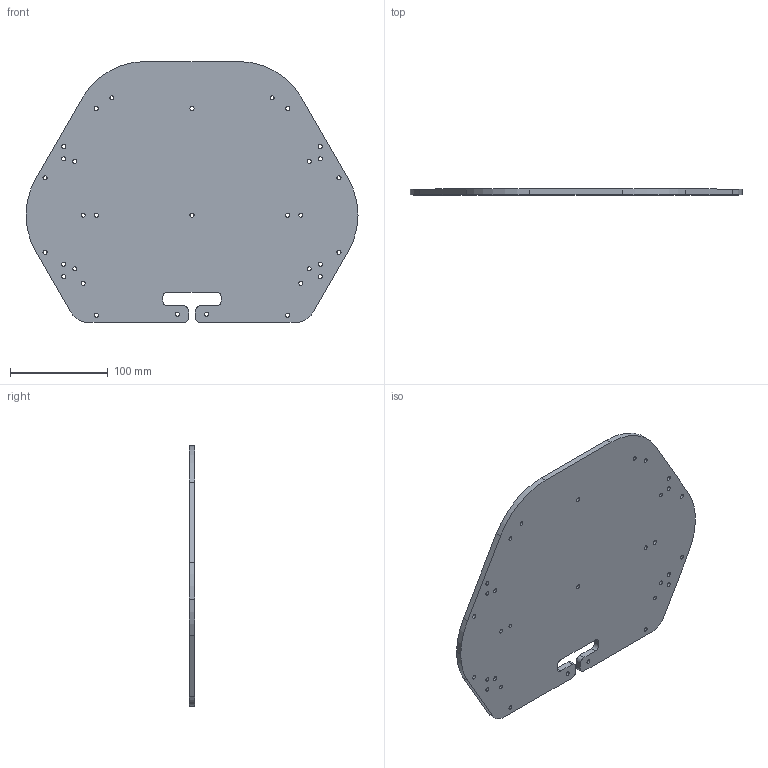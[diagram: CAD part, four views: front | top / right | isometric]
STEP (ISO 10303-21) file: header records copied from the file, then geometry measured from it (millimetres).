
FILE_DESCRIPTION((''),'2;1');
FILE_NAME('DISK_01_NEW','2012-11-01T',('asus'),(''),'PRO/ENGINEER BY PARAMETRIC TECHNOLOGY CORPORATION, 2010480','PRO/ENGINEER BY PARAMETRIC TECHNOLOGY CORPORATION, 2010480','');
FILE_SCHEMA(('CONFIG_CONTROL_DESIGN'));
Length unit declared in the file: millimetre
Products named in the file (1): DISK_01_NEW
Bounding box: 340 x 6 x 267.27 mm (x, y, z)
Volume: 438920.8 mm3; surface area: 155736.2 mm2
Topology: 1 solids, 1 shells, 96 faces, 282 edges, 188 vertices
Faces by surface type: cylinder 80, plane 16
Entity records: 3452 total; most frequent: DIRECTION 634, CARTESIAN_POINT 566, ORIENTED_EDGE 564, EDGE_CURVE 282, AXIS2_PLACEMENT_3D 256, VERTEX_POINT 188, EDGE_LOOP 160, CIRCLE 160
